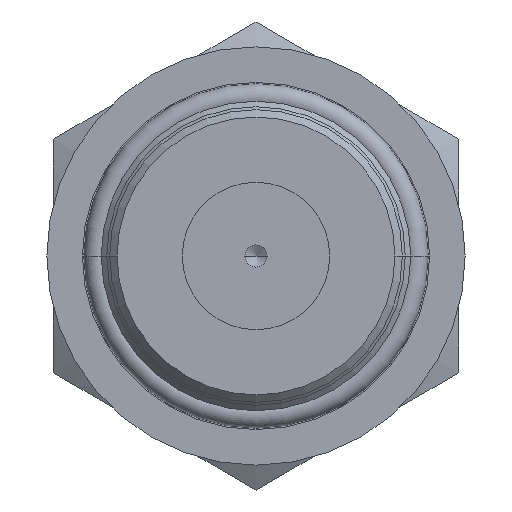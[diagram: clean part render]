
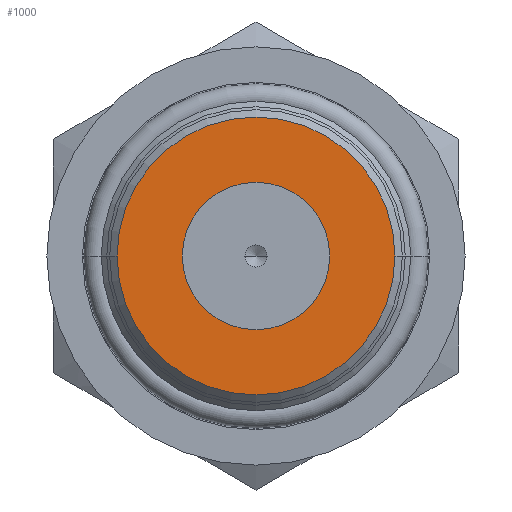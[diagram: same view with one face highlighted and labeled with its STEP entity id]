
A CAD part, left-side view. The second image highlights one B-rep face of the part: STEP entity #1000.
In plain terms, the highlighted planar face has unit normal (-1, 0, 0).
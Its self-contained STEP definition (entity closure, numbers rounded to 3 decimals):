
#189=CARTESIAN_POINT('',(-58.6,0.,0.));
#190=DIRECTION('',(-1.,0.,0.));
#191=DIRECTION('',(0.,1.,0.));
#192=AXIS2_PLACEMENT_3D('',#189,#190,#191);
#198=CARTESIAN_POINT('',(-58.6,0.,0.));
#199=DIRECTION('',(1.,0.,0.));
#200=DIRECTION('',(0.,1.,0.));
#201=AXIS2_PLACEMENT_3D('',#198,#199,#200);
#207=CARTESIAN_POINT('',(-58.6,0.,0.));
#208=DIRECTION('',(-1.,0.,0.));
#209=DIRECTION('',(0.,1.,0.));
#210=AXIS2_PLACEMENT_3D('',#207,#208,#209);
#212=CARTESIAN_POINT('',(-58.6,0.,0.));
#213=DIRECTION('',(1.,0.,0.));
#214=DIRECTION('',(0.,1.,0.));
#215=AXIS2_PLACEMENT_3D('',#212,#213,#214);
#607=CARTESIAN_POINT('',(-58.6,18.85,0.));
#608=VERTEX_POINT('',#607);
#609=CARTESIAN_POINT('',(-58.6,10.,0.));
#611=VERTEX_POINT('',#609);
#643=CARTESIAN_POINT('',(-58.6,-18.85,0.));
#644=VERTEX_POINT('',#643);
#645=CARTESIAN_POINT('',(-58.6,-10.,0.));
#647=VERTEX_POINT('',#645);
#985=CARTESIAN_POINT('',(-58.6,0.,0.));
#986=DIRECTION('',(-1.,0.,0.));
#987=DIRECTION('',(0.,1.,0.));
#988=AXIS2_PLACEMENT_3D('',#985,#986,#987);
#989=PLANE('',#988);
#991=ORIENTED_EDGE('',*,*,#990,.F.);
#993=ORIENTED_EDGE('',*,*,#992,.T.);
#994=EDGE_LOOP('',(#991,#993));
#995=FACE_OUTER_BOUND('',#994,.F.);
#996=ORIENTED_EDGE('',*,*,#978,.F.);
#997=ORIENTED_EDGE('',*,*,#967,.T.);
#998=EDGE_LOOP('',(#996,#997));
#999=FACE_BOUND('',#998,.F.);
#1000=ADVANCED_FACE('',(#995,#999),#989,.T.);
#193=CIRCLE('',#192,10.);
#202=CIRCLE('',#201,10.);
#211=CIRCLE('',#210,18.85);
#216=CIRCLE('',#215,18.85);
#967=EDGE_CURVE('',#611,#647,#193,.T.);
#978=EDGE_CURVE('',#611,#647,#202,.T.);
#990=EDGE_CURVE('',#608,#644,#211,.T.);
#992=EDGE_CURVE('',#608,#644,#216,.T.);
